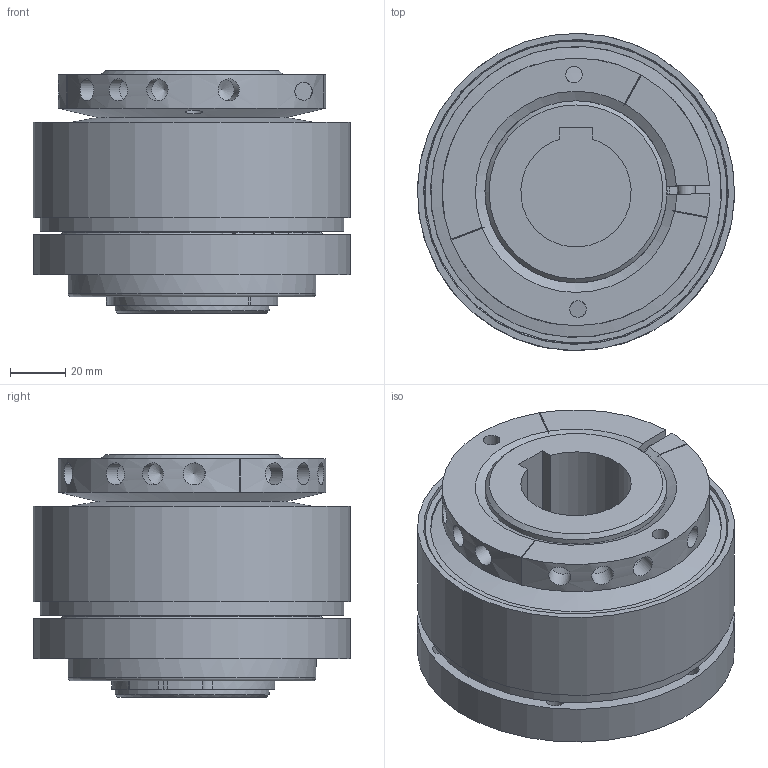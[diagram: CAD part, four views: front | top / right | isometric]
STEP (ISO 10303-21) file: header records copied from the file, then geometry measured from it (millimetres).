
FILE_DESCRIPTION( ( 'Unknown' ), '1' );
FILE_NAME( 'R:/UTP/progettazione/3 D/SPECIALI - FINITI/DSS-SG-RF/COMPLESSIVI/DSS-SG-RF KEYWAY/3-116 DSS-SG-RF 6C d40-A1.stp', 'Unknown', ( 'Unknown' ), ( 'Unknown' ), 'PSStep 10.1', 'Unknown', ' ' );
FILE_SCHEMA( ( 'AUTOMOTIVE_DESIGN { 1 0 10303 214 1 1 1 1 }' ) );
Length unit declared in the file: millimetre
Products named in the file (1): 1
Bounding box: 114.98 x 114.98 x 88 mm (x, y, z)
Volume: 550832.3 mm3; surface area: 164931.2 mm2
Topology: 1 solids, 5 shells, 214 faces, 544 edges, 358 vertices
Faces by surface type: plane 78, cylinder 75, cone 34, torus 27
Full cylindrical faces by diameter (mm): 2.5 x2, 6 x2, 6.5 x3, 6.647 x6, 8 x9, 10 x1, 52.9 x1, 55.9 x2, 65.9 x1, 66 x3, 66.3 x2, 66.908 x2, 67.7 x1, 69 x1, 76 x1, 79.25 x2, 80 x3, 81.5 x2, 85.3 x1, 90 x3, 94 x1, 95.85 x1, 97.76 x1, 102 x1, 105 x1, 105.389 x1, 105.5 x1, 106.996 x1, 109.5 x1, 110 x1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
Entity records: 9104 total; most frequent: CARTESIAN_POINT 2166, DIRECTION 946, ORIENTED_EDGE 680, AXIS2_PLACEMENT_3D 431, PRESENTATION_STYLE_ASSIGNMENT 429, COLOUR_RGB 429, EDGE_LOOP 393, EDGE_CURVE 340
